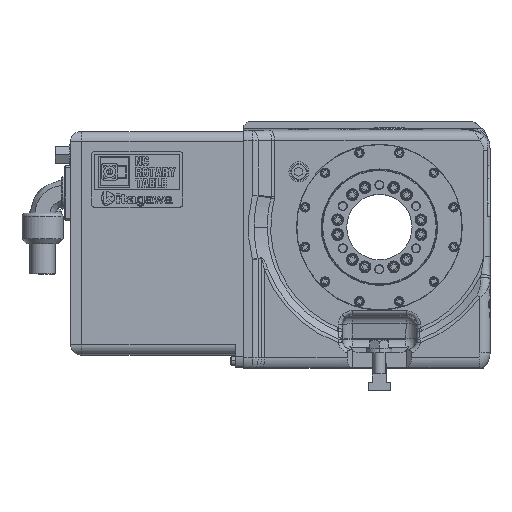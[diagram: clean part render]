
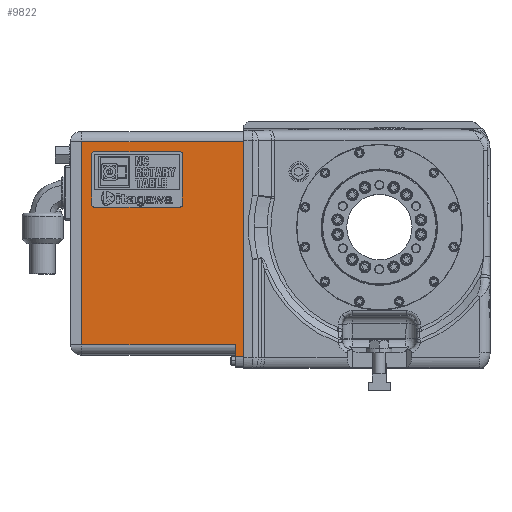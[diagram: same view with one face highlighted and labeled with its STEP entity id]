
A CAD part, top view. The second image highlights one B-rep face of the part: STEP entity #9822.
In plain terms, the highlighted planar face has unit normal (0, 0, 1).
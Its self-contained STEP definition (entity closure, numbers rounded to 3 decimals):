
#3485 = VECTOR ( 'NONE', #144951, 1000. ) ;
#5380 = VECTOR ( 'NONE', #83105, 1000. ) ;
#9822 = ADVANCED_FACE ( 'NONE', ( #76054 ), #13535, .T. ) ;
#13535 = PLANE ( 'NONE',  #17897 ) ;
#15511 = VERTEX_POINT ( 'NONE', #135193 ) ;
#16735 = ORIENTED_EDGE ( 'NONE', *, *, #133782, .T. ) ;
#17897 = AXIS2_PLACEMENT_3D ( 'NONE', #99629, #111907, #38284 ) ;
#24034 = DIRECTION ( 'NONE',  ( -1., 0., 0. ) ) ;
#31246 = EDGE_CURVE ( 'NONE', #133614, #68440, #99237, .T. ) ;
#33785 = VECTOR ( 'NONE', #69030, 1000. ) ;
#36591 = ORIENTED_EDGE ( 'NONE', *, *, #119140, .F. ) ;
#38284 = DIRECTION ( 'NONE',  ( 1., 0., 0. ) ) ;
#46663 = ORIENTED_EDGE ( 'NONE', *, *, #86824, .T. ) ;
#47713 = CARTESIAN_POINT ( 'NONE',  ( 0., 10., 0. ) ) ;
#50017 = EDGE_LOOP ( 'NONE', ( #95122, #138213, #113010, #16735, #36591, #46663 ) ) ;
#52359 = CARTESIAN_POINT ( 'NONE',  ( -8., 22., 0. ) ) ;
#56972 = VECTOR ( 'NONE', #95427, 1000. ) ;
#64746 = DIRECTION ( 'NONE',  ( 1., 0., 0. ) ) ;
#67851 = CARTESIAN_POINT ( 'NONE',  ( -8., 10., 0. ) ) ;
#68440 = VERTEX_POINT ( 'NONE', #67851 ) ;
#68982 = LINE ( 'NONE', #47713, #3485 ) ;
#69030 = DIRECTION ( 'NONE',  ( 0., -1., 0. ) ) ;
#70720 = CARTESIAN_POINT ( 'NONE',  ( -8., 10., 0. ) ) ;
#72391 = CARTESIAN_POINT ( 'NONE',  ( 0., 224., 0. ) ) ;
#76054 = FACE_OUTER_BOUND ( 'NONE', #50017, .T. ) ;
#79297 = LINE ( 'NONE', #52359, #140687 ) ;
#83105 = DIRECTION ( 'NONE',  ( 1., 0., 0. ) ) ;
#85906 = LINE ( 'NONE', #70720, #5380 ) ;
#86824 = EDGE_CURVE ( 'NONE', #121854, #107580, #125598, .T. ) ;
#89191 = VECTOR ( 'NONE', #24034, 1000. ) ;
#91706 = CARTESIAN_POINT ( 'NONE',  ( -8., 22., 0. ) ) ;
#92815 = EDGE_CURVE ( 'NONE', #15511, #107580, #93560, .T. ) ;
#93560 = LINE ( 'NONE', #144172, #56972 ) ;
#95122 = ORIENTED_EDGE ( 'NONE', *, *, #92815, .F. ) ;
#95427 = DIRECTION ( 'NONE',  ( 0., 1., 0. ) ) ;
#99237 = LINE ( 'NONE', #129657, #33785 ) ;
#99629 = CARTESIAN_POINT ( 'NONE',  ( -8., 10., 0. ) ) ;
#102970 = EDGE_CURVE ( 'NONE', #15511, #133614, #79297, .T. ) ;
#106876 = CARTESIAN_POINT ( 'NONE',  ( -161., 224., 0. ) ) ;
#107580 = VERTEX_POINT ( 'NONE', #106876 ) ;
#110078 = CARTESIAN_POINT ( 'NONE',  ( -8., 224., 0. ) ) ;
#111727 = CARTESIAN_POINT ( 'NONE',  ( 0., 10., 0. ) ) ;
#111884 = VERTEX_POINT ( 'NONE', #111727 ) ;
#111907 = DIRECTION ( 'NONE',  ( 0., 0., 1. ) ) ;
#113010 = ORIENTED_EDGE ( 'NONE', *, *, #31246, .T. ) ;
#119140 = EDGE_CURVE ( 'NONE', #121854, #111884, #68982, .T. ) ;
#121854 = VERTEX_POINT ( 'NONE', #72391 ) ;
#125598 = LINE ( 'NONE', #110078, #89191 ) ;
#129657 = CARTESIAN_POINT ( 'NONE',  ( -8., 10., 0. ) ) ;
#133614 = VERTEX_POINT ( 'NONE', #91706 ) ;
#133782 = EDGE_CURVE ( 'NONE', #68440, #111884, #85906, .T. ) ;
#135193 = CARTESIAN_POINT ( 'NONE',  ( -161., 22., 0. ) ) ;
#138213 = ORIENTED_EDGE ( 'NONE', *, *, #102970, .T. ) ;
#140687 = VECTOR ( 'NONE', #64746, 1000. ) ;
#144172 = CARTESIAN_POINT ( 'NONE',  ( -161., 234., 0. ) ) ;
#144951 = DIRECTION ( 'NONE',  ( 0., -1., 0. ) ) ;
